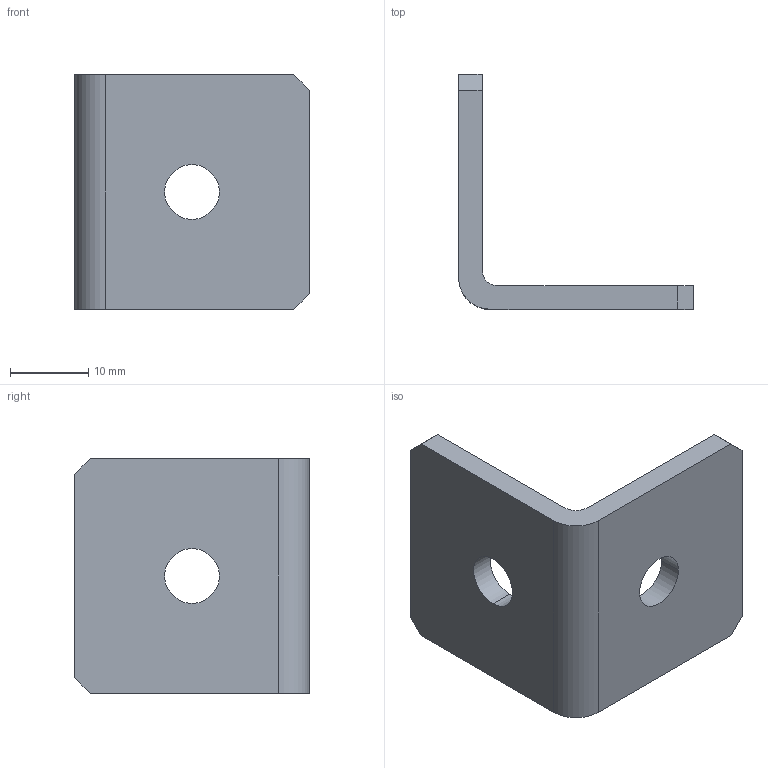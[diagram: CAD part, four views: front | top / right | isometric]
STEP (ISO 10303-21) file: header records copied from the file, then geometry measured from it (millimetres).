
FILE_DESCRIPTION (( 'STEP AP203' ), '1' );
FILE_NAME ('T090016.STEP', '2017-03-22T12:56:22', ( 'Localadmin' ), ( 'Microsoft' ), 'SwSTEP 2.0', 'SolidWorks 2016', '' );
FILE_SCHEMA (( 'CONFIG_CONTROL_DESIGN' ));
Length unit declared in the file: millimetre
Products named in the file (1): T090016
Bounding box: 30 x 30 x 30 mm (x, y, z)
Volume: 4797.8 mm3; surface area: 3807.5 mm2
Topology: 1 solids, 1 shells, 18 faces, 48 edges, 32 vertices
Faces by surface type: plane 12, cylinder 6
Entity records: 649 total; most frequent: CARTESIAN_POINT 99, DIRECTION 98, ORIENTED_EDGE 96, EDGE_CURVE 48, VECTOR 36, LINE 36, VERTEX_POINT 32, AXIS2_PLACEMENT_3D 31
